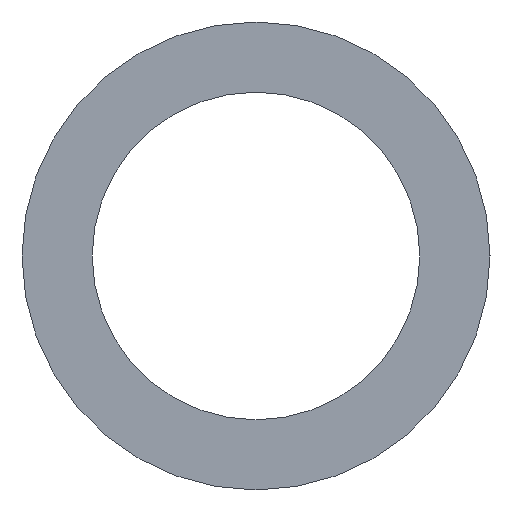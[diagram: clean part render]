
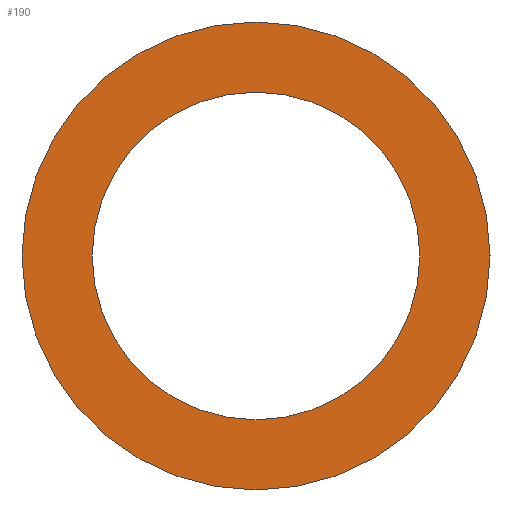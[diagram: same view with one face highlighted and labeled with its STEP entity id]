
A CAD part, left-side view. The second image highlights one B-rep face of the part: STEP entity #190.
In plain terms, the highlighted planar face has unit normal (-1, 0, 0).
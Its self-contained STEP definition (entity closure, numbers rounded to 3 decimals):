
#21 = EDGE_CURVE('',#22,#22,#24,.T.);
#22 = VERTEX_POINT('',#23);
#23 = CARTESIAN_POINT('',(0.,3.5,0.));
#24 = SURFACE_CURVE('',#25,(#30,#42),.PCURVE_S1.);
#25 = CIRCLE('',#26,3.5);
#26 = AXIS2_PLACEMENT_3D('',#27,#28,#29);
#27 = CARTESIAN_POINT('',(0.,0.,0.));
#28 = DIRECTION('',(1.,0.,0.));
#29 = DIRECTION('',(-0.,1.,0.));
#30 = PCURVE('',#31,#36);
#31 = CYLINDRICAL_SURFACE('',#32,3.5);
#32 = AXIS2_PLACEMENT_3D('',#33,#34,#35);
#33 = CARTESIAN_POINT('',(0.,0.,0.));
#34 = DIRECTION('',(1.,0.,0.));
#35 = DIRECTION('',(-0.,1.,0.));
#36 = DEFINITIONAL_REPRESENTATION('',(#37),#41);
#37 = LINE('',#38,#39);
#38 = CARTESIAN_POINT('',(0.,0.));
#39 = VECTOR('',#40,1.);
#40 = DIRECTION('',(1.,0.));
#41 = ( GEOMETRIC_REPRESENTATION_CONTEXT(2) 
PARAMETRIC_REPRESENTATION_CONTEXT() REPRESENTATION_CONTEXT('2D SPACE',''
  ) );
#42 = PCURVE('',#43,#48);
#43 = PLANE('',#44);
#44 = AXIS2_PLACEMENT_3D('',#45,#46,#47);
#45 = CARTESIAN_POINT('',(0.,0.,0.));
#46 = DIRECTION('',(1.,0.,0.));
#47 = DIRECTION('',(-0.,1.,0.));
#48 = DEFINITIONAL_REPRESENTATION('',(#49),#53);
#49 = CIRCLE('',#50,3.5);
#50 = AXIS2_PLACEMENT_2D('',#51,#52);
#51 = CARTESIAN_POINT('',(0.,0.));
#52 = DIRECTION('',(1.,0.));
#53 = ( GEOMETRIC_REPRESENTATION_CONTEXT(2) 
PARAMETRIC_REPRESENTATION_CONTEXT() REPRESENTATION_CONTEXT('2D SPACE',''
  ) );
#129 = CYLINDRICAL_SURFACE('',#130,5.);
#130 = AXIS2_PLACEMENT_3D('',#131,#132,#133);
#131 = CARTESIAN_POINT('',(32.,0.,0.));
#132 = DIRECTION('',(-1.,-0.,-0.));
#133 = DIRECTION('',(0.,1.,0.));
#146 = VERTEX_POINT('',#147);
#147 = CARTESIAN_POINT('',(0.,5.,0.));
#168 = EDGE_CURVE('',#146,#146,#169,.T.);
#169 = SURFACE_CURVE('',#170,(#175,#182),.PCURVE_S1.);
#170 = CIRCLE('',#171,5.);
#171 = AXIS2_PLACEMENT_3D('',#172,#173,#174);
#172 = CARTESIAN_POINT('',(0.,0.,0.));
#173 = DIRECTION('',(1.,0.,0.));
#174 = DIRECTION('',(-0.,1.,0.));
#175 = PCURVE('',#129,#176);
#176 = DEFINITIONAL_REPRESENTATION('',(#177),#181);
#177 = LINE('',#178,#179);
#178 = CARTESIAN_POINT('',(-0.,32.));
#179 = VECTOR('',#180,1.);
#180 = DIRECTION('',(-1.,0.));
#181 = ( GEOMETRIC_REPRESENTATION_CONTEXT(2) 
PARAMETRIC_REPRESENTATION_CONTEXT() REPRESENTATION_CONTEXT('2D SPACE',''
  ) );
#182 = PCURVE('',#43,#183);
#183 = DEFINITIONAL_REPRESENTATION('',(#184),#188);
#184 = CIRCLE('',#185,5.);
#185 = AXIS2_PLACEMENT_2D('',#186,#187);
#186 = CARTESIAN_POINT('',(0.,0.));
#187 = DIRECTION('',(1.,0.));
#188 = ( GEOMETRIC_REPRESENTATION_CONTEXT(2) 
PARAMETRIC_REPRESENTATION_CONTEXT() REPRESENTATION_CONTEXT('2D SPACE',''
  ) );
#190 = ADVANCED_FACE('',(#191,#194),#43,.F.);
#191 = FACE_BOUND('',#192,.F.);
#192 = EDGE_LOOP('',(#193));
#193 = ORIENTED_EDGE('',*,*,#168,.T.);
#194 = FACE_BOUND('',#195,.F.);
#195 = EDGE_LOOP('',(#196));
#196 = ORIENTED_EDGE('',*,*,#21,.F.);
